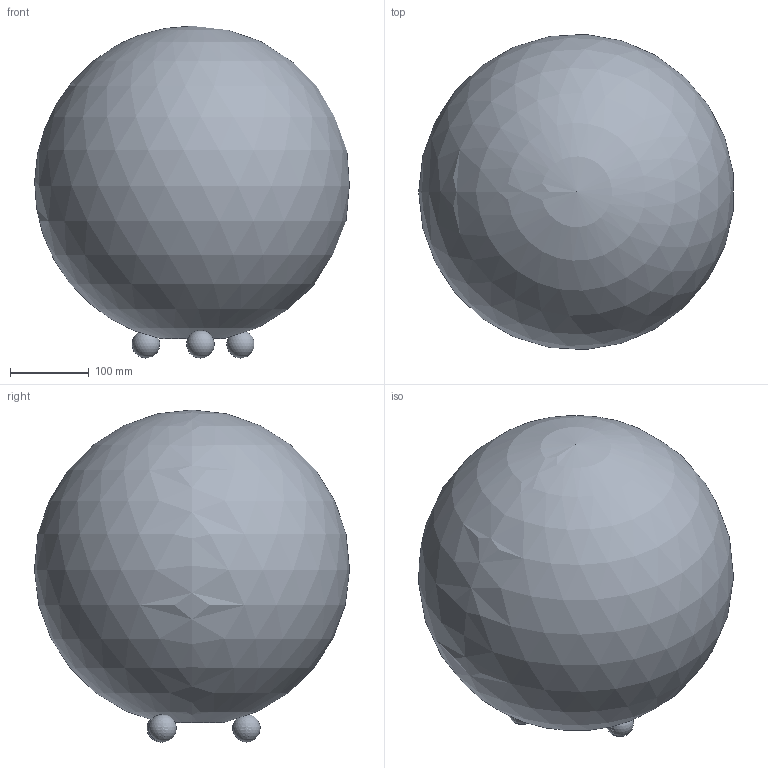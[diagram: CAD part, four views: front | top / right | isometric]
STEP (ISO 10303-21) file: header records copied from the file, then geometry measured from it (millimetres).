
FILE_DESCRIPTION(/* description */ (''),/* implementation_level */ '2;1');
FILE_NAME(/* name */ 'C:/Users/LukasGröber/GMS Cloud/Groeber Mannheim Lichtwerke - Dokumente/Marketing/Produkte/3D Daten/Snowball Tischleuchte/Snowball 40 Tischleuchte.step',/* time_stamp */ '2022-07-07T08:41:45+02:00',/* author */ (''),/* organization */ (''),/* preprocessor_version */ 'ST-DEVELOPER v19',/* originating_system */ 'Autodesk Translation Framework v11.7.0.108',/* authorisation */ '');
FILE_SCHEMA (('AUTOMOTIVE_DESIGN { 1 0 10303 214 3 1 1 }'));
Length unit declared in the file: millimetre
Products named in the file (2): Snowball 40 Tischleuchte (Modell); Snowball 400 Öffnung 80
Assembly tree (1 placements, depth 2):
  Snowball 40 Tischleuchte (Modell)
    Snowball 400 Öffnung 80
Bounding box: 398.61 x 399.29 x 420.59 mm (x, y, z)
Volume: 2492917.8 mm3; surface area: 983161.2 mm2
Topology: 4 solids, 4 shells, 6 faces, 16 edges, 10 vertices
Faces by surface type: sphere 5, cylinder 1
Full cylindrical faces by diameter (mm): 80 x1
Entity records: 224 total; most frequent: DIRECTION 33, CARTESIAN_POINT 27, ORIENTED_EDGE 16, AXIS2_PLACEMENT_3D 16, VERTEX_POINT 10, EDGE_CURVE 8, CIRCLE 7, FACE_OUTER_BOUND 6
